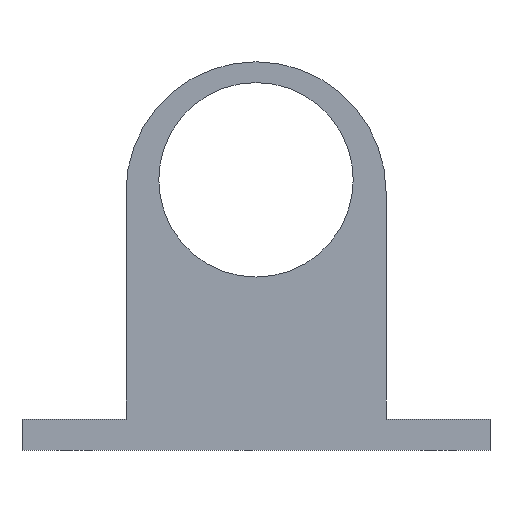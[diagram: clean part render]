
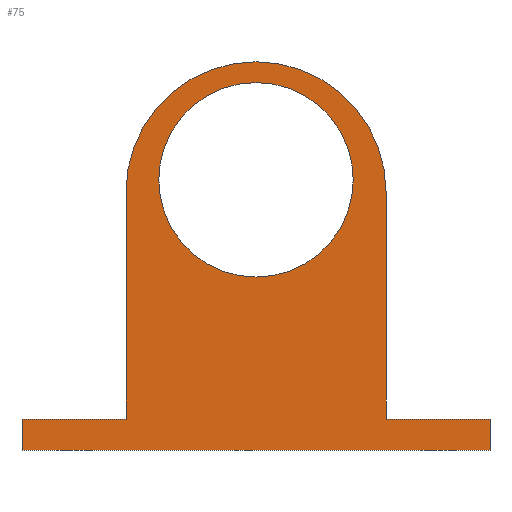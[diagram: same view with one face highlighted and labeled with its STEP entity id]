
A CAD part, front view. The second image highlights one B-rep face of the part: STEP entity #75.
In plain terms, the highlighted planar face has unit normal (0, -1, 0).
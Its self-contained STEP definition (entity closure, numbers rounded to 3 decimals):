
#51=FACE_BOUND('',#105,.T.);
#52=FACE_BOUND('',#106,.T.);
#66=CIRCLE('',#284,9.35);
#67=CIRCLE('',#285,12.5);
#75=ADVANCED_FACE('',(#51,#52),#88,.F.);
#88=PLANE('',#286);
#105=EDGE_LOOP('',(#139));
#106=EDGE_LOOP('',(#140,#141,#142,#143,#144,#145,#146,#147));
#139=ORIENTED_EDGE('',*,*,#218,.T.);
#140=ORIENTED_EDGE('',*,*,#219,.F.);
#141=ORIENTED_EDGE('',*,*,#220,.T.);
#142=ORIENTED_EDGE('',*,*,#210,.F.);
#143=ORIENTED_EDGE('',*,*,#208,.F.);
#144=ORIENTED_EDGE('',*,*,#204,.F.);
#145=ORIENTED_EDGE('',*,*,#216,.F.);
#146=ORIENTED_EDGE('',*,*,#221,.F.);
#147=ORIENTED_EDGE('',*,*,#222,.F.);
#182=VERTEX_POINT('',#369);
#183=VERTEX_POINT('',#371);
#186=VERTEX_POINT('',#379);
#187=VERTEX_POINT('',#383);
#191=VERTEX_POINT('',#393);
#193=VERTEX_POINT('',#399);
#194=VERTEX_POINT('',#401);
#195=VERTEX_POINT('',#402);
#196=VERTEX_POINT('',#405);
#204=EDGE_CURVE('',#182,#183,#234,.T.);
#208=EDGE_CURVE('',#183,#186,#237,.T.);
#210=EDGE_CURVE('',#186,#187,#239,.T.);
#216=EDGE_CURVE('',#191,#182,#244,.T.);
#218=EDGE_CURVE('',#193,#193,#66,.T.);
#219=EDGE_CURVE('',#194,#195,#245,.T.);
#220=EDGE_CURVE('',#194,#187,#67,.T.);
#221=EDGE_CURVE('',#196,#191,#246,.T.);
#222=EDGE_CURVE('',#195,#196,#247,.T.);
#234=LINE('',#370,#256);
#237=LINE('',#378,#259);
#239=LINE('',#382,#261);
#244=LINE('',#394,#266);
#245=LINE('',#400,#267);
#246=LINE('',#404,#268);
#247=LINE('',#406,#269);
#256=VECTOR('',#302,1.);
#259=VECTOR('',#309,1.);
#261=VECTOR('',#313,1.);
#266=VECTOR('',#322,1.);
#267=VECTOR('',#329,1.);
#268=VECTOR('',#332,1.);
#269=VECTOR('',#333,1.);
#284=AXIS2_PLACEMENT_3D('',#398,#327,#328);
#285=AXIS2_PLACEMENT_3D('',#403,#330,#331);
#286=AXIS2_PLACEMENT_3D('',#407,#334,#335);
#302=DIRECTION('',(0.,0.,1.));
#309=DIRECTION('',(1.,0.,0.));
#313=DIRECTION('',(0.,0.,1.));
#322=DIRECTION('',(-1.,0.,0.));
#327=DIRECTION('',(0.,1.,0.));
#328=DIRECTION('',(0.,0.,1.));
#329=DIRECTION('',(0.,0.,-1.));
#330=DIRECTION('',(0.,-1.,0.));
#331=DIRECTION('',(0.,0.,1.));
#332=DIRECTION('',(0.,0.,-1.));
#333=DIRECTION('',(1.,0.,0.));
#334=DIRECTION('',(0.,1.,0.));
#335=DIRECTION('',(0.,0.,1.));
#369=CARTESIAN_POINT('',(427.5,87.,376.));
#370=CARTESIAN_POINT('',(427.5,87.,376.));
#371=CARTESIAN_POINT('',(427.5,87.,379.));
#378=CARTESIAN_POINT('',(427.5,87.,379.));
#379=CARTESIAN_POINT('',(437.5,87.,379.));
#382=CARTESIAN_POINT('',(437.5,87.,379.));
#383=CARTESIAN_POINT('',(437.5,87.,400.85));
#393=CARTESIAN_POINT('',(472.5,87.,376.));
#394=CARTESIAN_POINT('',(450.,87.,376.));
#398=CARTESIAN_POINT('',(450.,87.,402.));
#399=CARTESIAN_POINT('',(450.,87.,411.35));
#400=CARTESIAN_POINT('',(462.5,87.,379.));
#401=CARTESIAN_POINT('',(462.5,87.,400.85));
#402=CARTESIAN_POINT('',(462.5,87.,379.));
#403=CARTESIAN_POINT('',(450.,87.,400.85));
#404=CARTESIAN_POINT('',(472.5,87.,376.));
#405=CARTESIAN_POINT('',(472.5,87.,379.));
#406=CARTESIAN_POINT('',(472.5,87.,379.));
#407=CARTESIAN_POINT('',(0.,87.,0.));
